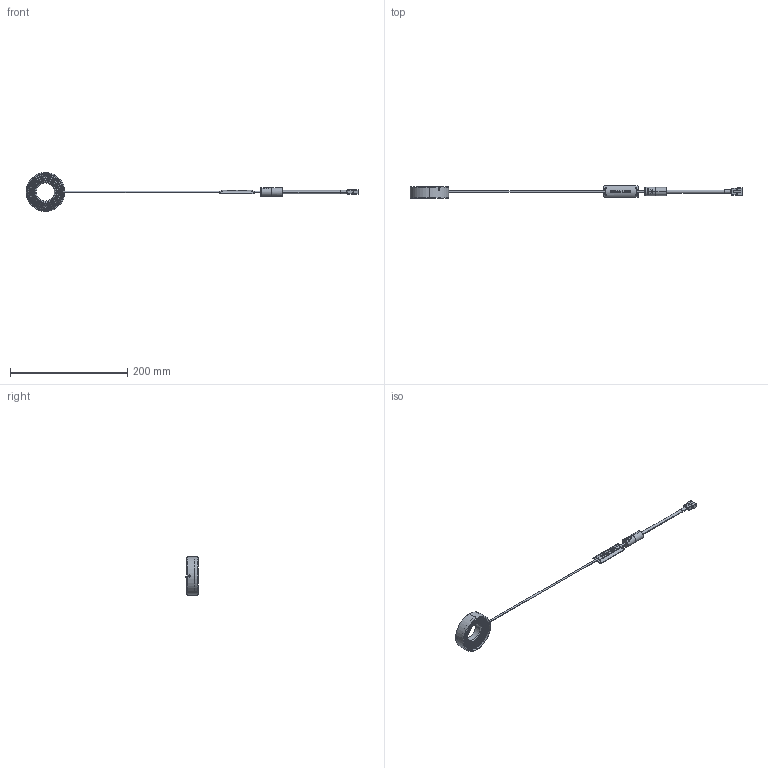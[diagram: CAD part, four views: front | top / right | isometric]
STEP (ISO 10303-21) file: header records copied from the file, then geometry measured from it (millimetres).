
FILE_DESCRIPTION (( 'STEP AP203' ), '1' );
FILE_NAME ('MDRL-C#31_A09303A0100301A-003.STEP', '2013-12-16T23:59:35', ( 'SCHOTT' ), ( 'SCHOTT' ), 'SwSTEP 2.0', 'SolidWorks 2011', '' );
FILE_SCHEMA (( 'CONFIG_CONTROL_DESIGN' ));
Length unit declared in the file: millimetre
Products named in the file (1): MDRL-C#31_A09303A0100301A-003
Bounding box: 566 x 21.5 x 66 mm (x, y, z)
Volume: 52497.5 mm3; surface area: 30991.1 mm2
Topology: 3 solids, 9 shells, 2311 faces, 6393 edges, 4256 vertices
Faces by surface type: plane 1427, cylinder 615, sphere 232, cone 26, bspline 8, torus 3
Entity records: 80401 total; most frequent: CARTESIAN_POINT 22564, ORIENTED_EDGE 12322, DIRECTION 11159, EDGE_CURVE 6161, VERTEX_POINT 4256, AXIS2_PLACEMENT_3D 3978, VECTOR 3203, LINE 3203
